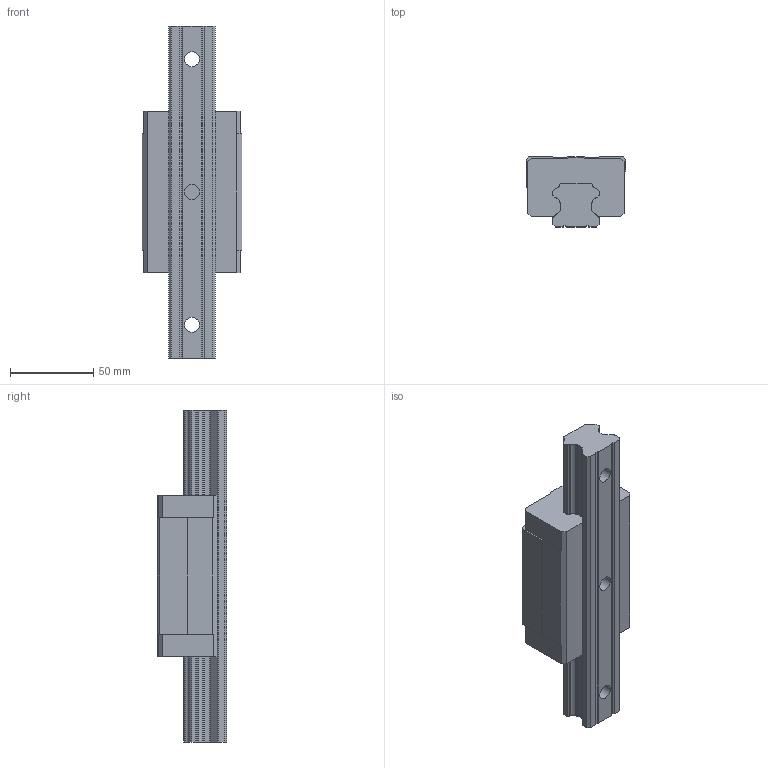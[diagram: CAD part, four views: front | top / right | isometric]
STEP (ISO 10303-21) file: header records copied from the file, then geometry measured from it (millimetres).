
FILE_DESCRIPTION (( 'STEP AP214' ), '1' );
FILE_NAME ('2.1034 Lineaarikelkka HGL30CA.STEP', '2025-09-19T06:34:46', ( '' ), ( '' ), 'SwSTEP 2.0', 'SolidWorks 2025', '' );
FILE_SCHEMA (( 'AUTOMOTIVE_DESIGN' ));
Length unit declared in the file: millimetre
Products named in the file (1): 2.1034 Lineaarikelkka HGL30CA
Bounding box: 60 x 42 x 200 mm (x, y, z)
Volume: 272752.3 mm3; surface area: 52412.3 mm2
Topology: 2 solids, 2 shells, 159 faces, 460 edges, 312 vertices
Faces by surface type: plane 97, cylinder 62
Entity records: 7510 total; most frequent: CARTESIAN_POINT 1588, ORIENTED_EDGE 920, DIRECTION 779, EDGE_CURVE 460, VERTEX_POINT 312, LINE 301, VECTOR 301, AXIS2_PLACEMENT_3D 239
